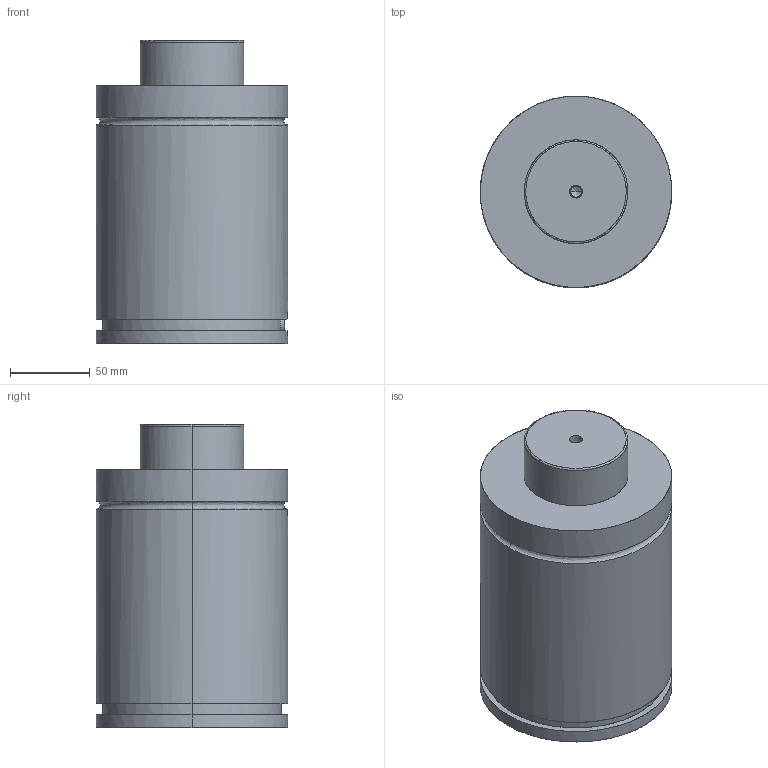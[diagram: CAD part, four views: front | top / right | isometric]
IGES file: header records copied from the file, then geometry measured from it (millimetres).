
Global section: file name: E:\UnigraphicsGraphicData\MISUMI_PRESS-PARTS\IGES\3d_gse120-25_03880_r00.igs; native system: NX V5.0; preprocessor: UGS NX IGES V5.0; author: MISUMI; date: 20110105.160752; units: millimetre
Bounding box: 120 x 120 x 190 mm (x, y, z)
Surface area: 96353.2 mm2 (no closed solid volume)
Topology: 0 solids, 0 shells, 75 faces, 604 edges, 602 vertices
Faces by surface type: bspline 75
